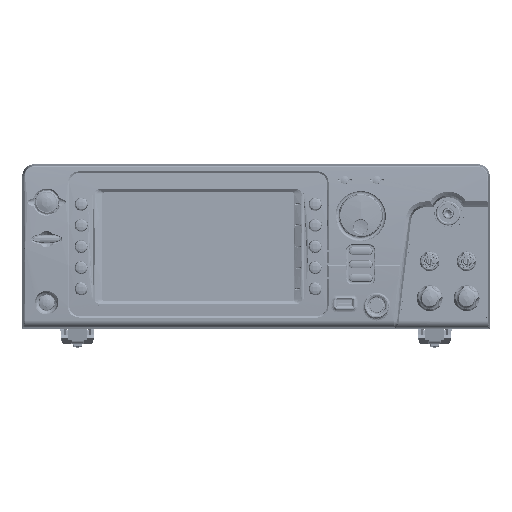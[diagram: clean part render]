
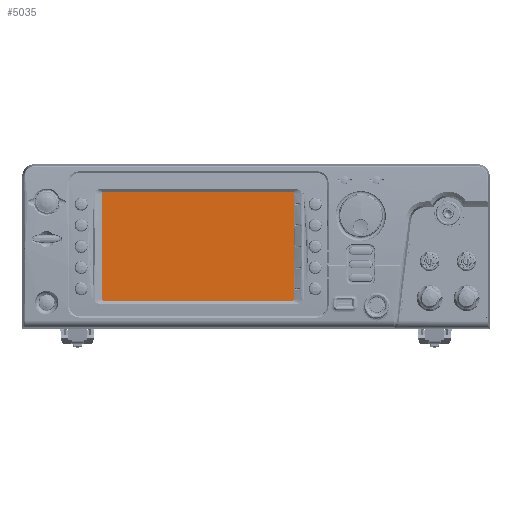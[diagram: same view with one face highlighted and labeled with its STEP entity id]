
A CAD part, top view. The second image highlights one B-rep face of the part: STEP entity #5035.
In plain terms, the highlighted planar face has unit normal (0, 0, 1).
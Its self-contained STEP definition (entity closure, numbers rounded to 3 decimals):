
#1152=DIRECTION('',(0.,-1.,0.));
#1153=VECTOR('',#1152,89.1);
#1154=CARTESIAN_POINT('',(-78.35,44.55,5.3));
#1155=LINE('',#1154,#1153);
#1156=DIRECTION('',(-1.,0.,0.));
#1157=VECTOR('',#1156,156.7);
#1158=CARTESIAN_POINT('',(78.35,44.55,5.3));
#1159=LINE('',#1158,#1157);
#1160=DIRECTION('',(0.,1.,0.));
#1161=VECTOR('',#1160,89.1);
#1162=CARTESIAN_POINT('',(78.35,-44.55,5.3));
#1163=LINE('',#1162,#1161);
#1164=DIRECTION('',(1.,0.,0.));
#1165=VECTOR('',#1164,156.7);
#1166=CARTESIAN_POINT('',(-78.35,-44.55,5.3));
#1167=LINE('',#1166,#1165);
#4280=CARTESIAN_POINT('',(-78.35,44.55,5.3));
#4281=CARTESIAN_POINT('',(-78.35,-44.55,5.3));
#4282=VERTEX_POINT('',#4280);
#4283=VERTEX_POINT('',#4281);
#4284=CARTESIAN_POINT('',(78.35,-44.55,5.3));
#4285=VERTEX_POINT('',#4284);
#4286=CARTESIAN_POINT('',(78.35,44.55,5.3));
#4287=VERTEX_POINT('',#4286);
#5024=CARTESIAN_POINT('',(0.,0.,5.3));
#5025=DIRECTION('',(0.,0.,1.));
#5026=DIRECTION('',(1.,0.,0.));
#5027=AXIS2_PLACEMENT_3D('',#5024,#5025,#5026);
#5028=PLANE('',#5027);
#5029=ORIENTED_EDGE('',*,*,#4976,.F.);
#5030=ORIENTED_EDGE('',*,*,#4991,.F.);
#5031=ORIENTED_EDGE('',*,*,#5005,.F.);
#5032=ORIENTED_EDGE('',*,*,#5018,.F.);
#5033=EDGE_LOOP('',(#5029,#5030,#5031,#5032));
#5034=FACE_OUTER_BOUND('',#5033,.F.);
#5035=ADVANCED_FACE('',(#5034),#5028,.T.);
#4976=EDGE_CURVE('',#4282,#4283,#1155,.T.);
#4991=EDGE_CURVE('',#4287,#4282,#1159,.T.);
#5005=EDGE_CURVE('',#4285,#4287,#1163,.T.);
#5018=EDGE_CURVE('',#4283,#4285,#1167,.T.);
